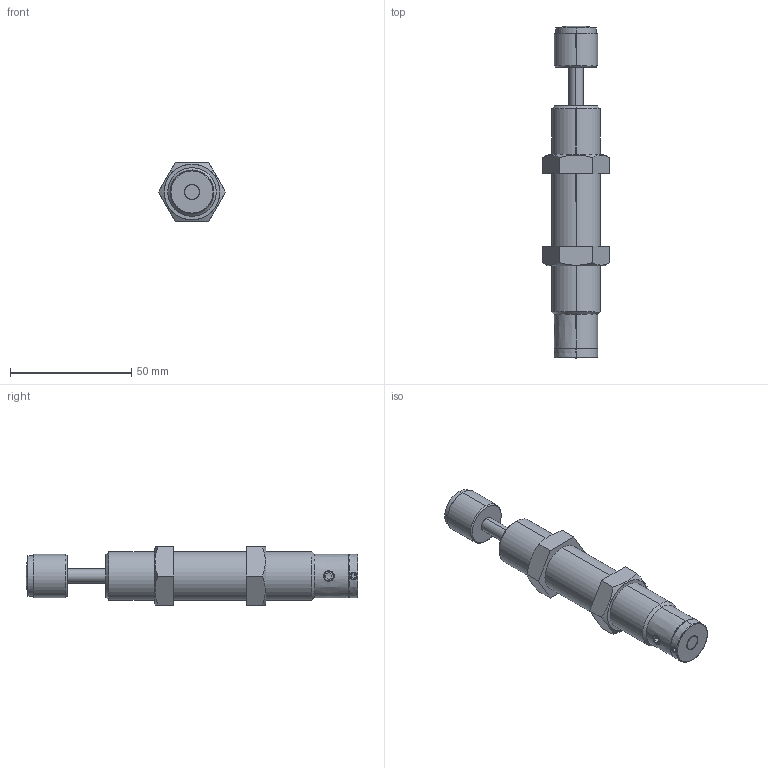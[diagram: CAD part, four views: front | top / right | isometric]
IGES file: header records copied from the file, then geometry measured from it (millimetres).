
Start section: SolidWorks IGES file using analytic representation for surfaces
Bounding box: 27.71 x 137 x 24 mm (x, y, z)
Surface area: 11790.5 mm2 (no closed solid volume)
Topology: 0 solids, 0 shells, 101 faces, 1550 edges, 1549 vertices
Faces by surface type: revolution 58, bspline 43
